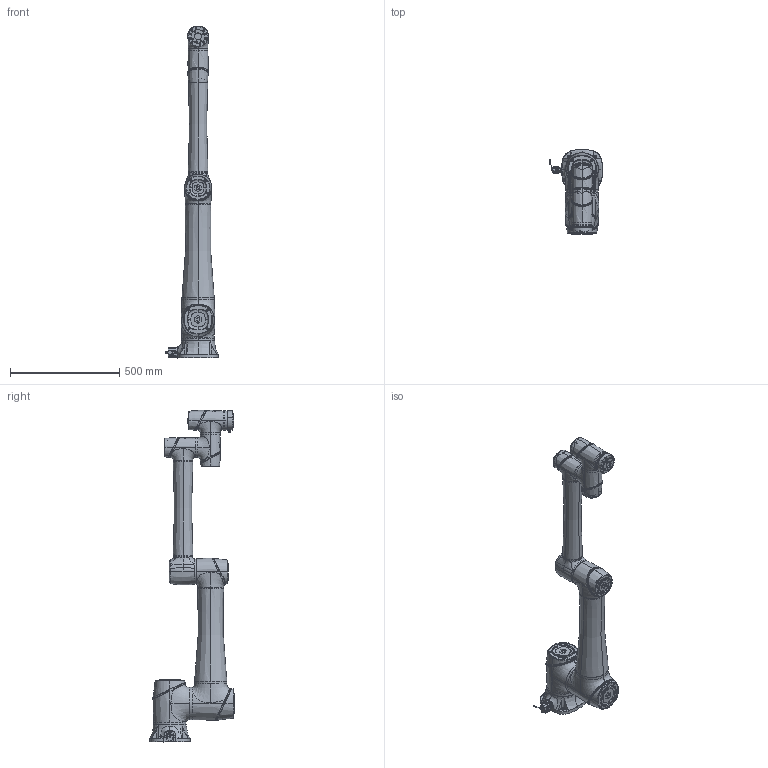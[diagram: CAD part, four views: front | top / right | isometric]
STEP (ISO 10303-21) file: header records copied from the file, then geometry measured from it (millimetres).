
FILE_DESCRIPTION((''),'2;1');
FILE_NAME('CR10AP_ASM','2024-11-20T16:25:57',('dobot'),(''),'CREO PARAMETRIC BY PTC INC, 2017260','CREO PARAMETRIC BY PTC INC, 2017260','');
FILE_SCHEMA(('AUTOMOTIVE_DESIGN { 1 0 10303 214 1 1 1 1 }'));
Length unit declared in the file: millimetre
Products named in the file (40): 3203010035_20; 2206042800_1; 09455451560_100527719MOD000A_1_; 09455250040_100674590MOD000A_1_; 01_ASM_1_ASM_2_ASM; 0003_ASM_2_ASM; 0004_3; 0005_4; 09407030311_100095447MOD000J_3; 2005040000_ASM_17_ASM; 3201005145_2; 2201047000_1; 2201040800_2; 09400035412_100540141MOD000C_1_; M4X10_GB70_2; 00_1; 00_CR6-10_BASE_ASM_23_ASM; _____CR10_2__CR100001_ASM_1_ASM; __2___CR10_2__CR100001_2; _CR10_2__CR100001_3; NONE-58928_1; NONE-60543_1; NONE-108935_1; J6_CR10_2__CR100001_ASM_1_ASM; 25-00_2; 25-0001_ASM_2_ASM; NONE-62650_3; 32-0002_2; 32-0001_ASM_3_ASM; J2_CR10_2__CR100001_ASM_3_ASM; CR1000_ASM_4_ASM; __2___CR10_2__CR100002_3; __4___CR10_2__CR100001_3; __2___CR10_2__CR100003_4; 32--IP680001_24; 25--IP68-20001_5; 2206042500_37; 17--IP680001_3; CR10__ASM_3_ASM; CR10AP_ASM
Assembly tree (47 placements, depth 9):
  CR10AP_ASM
    CR10__ASM_3_ASM
      CR1000_ASM_4_ASM
        _____CR10_2__CR100001_ASM_1_ASM
          00_CR6-10_BASE_ASM_23_ASM
            3203010035_20
            2206042800_1
            2005040000_ASM_17_ASM
              0003_ASM_2_ASM
                01_ASM_1_ASM_2_ASM
                  09455451560_100527719MOD000A_1_
                  09455250040_100674590MOD000A_1_
              0004_3
              0005_4
              09407030311_100095447MOD000J_3
            3201005145_2
            2201047000_1  x4
            2201040800_2
            09400035412_100540141MOD000C_1_
            M4X10_GB70_2  x3
            00_1
        __2___CR10_2__CR100001_2
        _CR10_2__CR100001_3
        J6_CR10_2__CR100001_ASM_1_ASM
          NONE-58928_1
          NONE-60543_1
          NONE-108935_1
        J2_CR10_2__CR100001_ASM_3_ASM
          25-0001_ASM_2_ASM
            25-00_2
          NONE-62650_3
          32-0001_ASM_3_ASM
            32-0002_2
      __2___CR10_2__CR100002_3
      __4___CR10_2__CR100001_3
      __2___CR10_2__CR100003_4
      32-0001_ASM_3_ASM
        32-0002_2
      32--IP680001_24  x2
      25--IP68-20001_5
      2206042500_37
      17--IP680001_3  x2
Bounding box: 242.54 x 389.65 x 1522.3 mm (x, y, z)
Volume: 21173579.9 mm3; surface area: 1486356.1 mm2
Topology: 36 solids, 43 shells, 4184 faces, 10610 edges, 6849 vertices
Faces by surface type: plane 1914, cylinder 847, bspline 787, cone 448, extrusion 144, torus 40, revolution 4
Entity records: 224291 total; most frequent: CARTESIAN_POINT 110957, ORIENTED_EDGE 18728, DIRECTION 16708, EDGE_CURVE 9364, VERTEX_POINT 6106, PRESENTATION_STYLE_ASSIGNMENT 5955, AXIS2_PLACEMENT_3D 5870, STYLED_ITEM 5461
